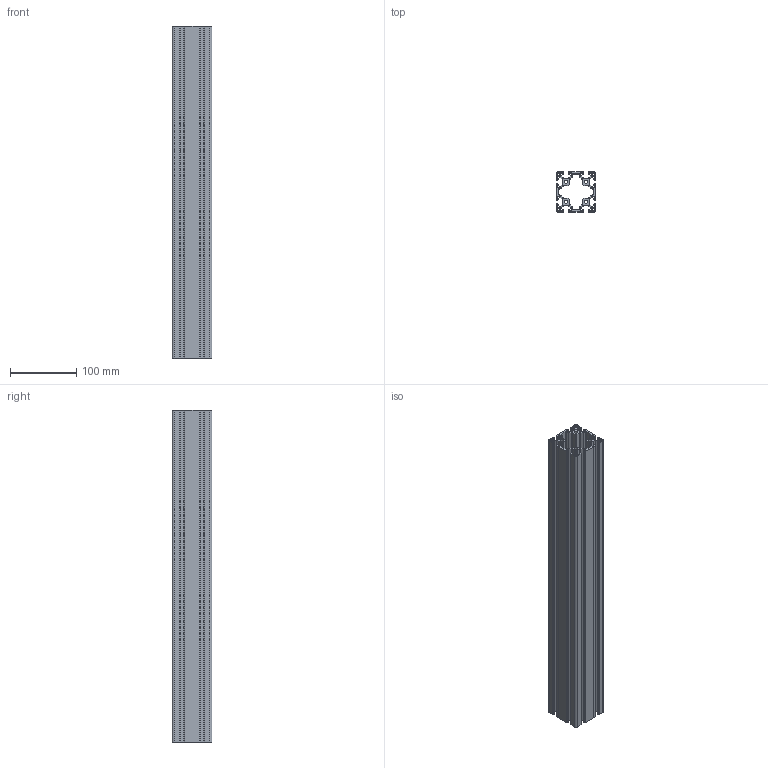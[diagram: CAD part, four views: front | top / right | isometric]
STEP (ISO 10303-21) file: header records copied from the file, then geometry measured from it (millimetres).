
FILE_DESCRIPTION (( 'STEP AP203' ), '1' );
FILE_NAME ('M ATP I6 6060L.STEP', '2012-06-04T09:19:25', ( 'alle' ), ( 'Hewlett-Packard Company' ), 'SwSTEP 2.0', 'SolidWorks 2011', '' );
FILE_SCHEMA (( 'CONFIG_CONTROL_DESIGN' ));
Length unit declared in the file: millimetre
Products named in the file (1): M ATP I6 6060L
Bounding box: 60 x 60 x 500 mm (x, y, z)
Volume: 487252 mm3; surface area: 417695.1 mm2
Topology: 1 solids, 1 shells, 338 faces, 1008 edges, 672 vertices
Faces by surface type: cylinder 172, plane 166
Entity records: 11569 total; most frequent: DIRECTION 2030, CARTESIAN_POINT 2019, ORIENTED_EDGE 2016, EDGE_CURVE 1008, AXIS2_PLACEMENT_3D 683, VERTEX_POINT 672, VECTOR 664, LINE 664
